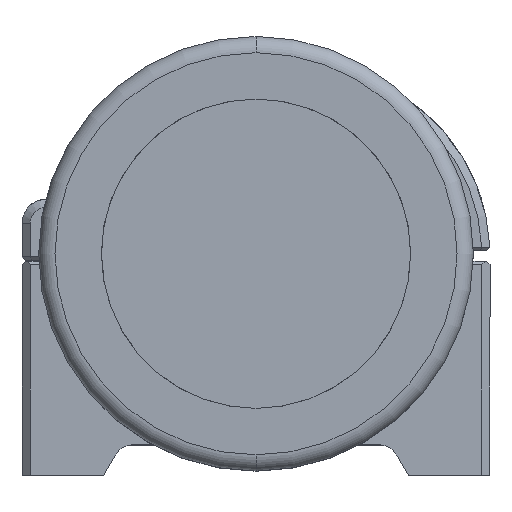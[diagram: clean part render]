
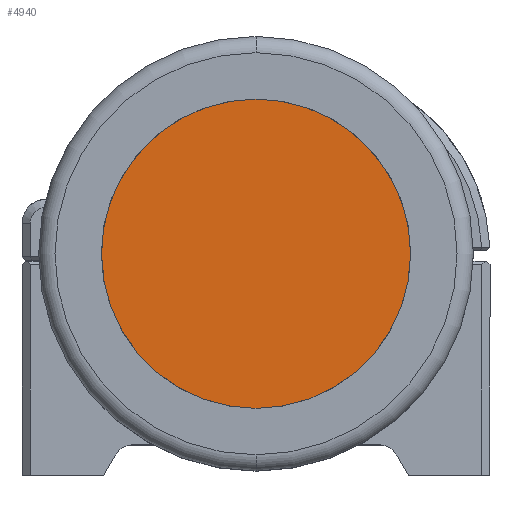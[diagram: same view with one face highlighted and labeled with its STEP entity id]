
A CAD part, top view. The second image highlights one B-rep face of the part: STEP entity #4940.
In plain terms, the highlighted planar face has unit normal (0, 0, 1).
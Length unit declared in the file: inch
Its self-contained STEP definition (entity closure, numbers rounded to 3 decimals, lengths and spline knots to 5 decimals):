
#2542 = FACE_OUTER_BOUND ( 'NONE', #30172, .T. ) ;
#2790 = VERTEX_POINT ( 'NONE', #27526 ) ;
#3684 = ORIENTED_EDGE ( 'NONE', *, *, #17186, .T. ) ;
#4802 = DIRECTION ( 'NONE',  ( 1., 0., 0. ) ) ;
#4940 = ADVANCED_FACE ( 'NONE', ( #2542 ), #12550, .T. ) ;
#7233 = DIRECTION ( 'NONE',  ( 0., 0., 1. ) ) ;
#7516 = AXIS2_PLACEMENT_3D ( 'NONE', #16685, #13956, #23765 ) ;
#9523 = AXIS2_PLACEMENT_3D ( 'NONE', #29630, #7233, #4802 ) ;
#11321 = CARTESIAN_POINT ( 'NONE',  ( 1.1675, 0., 0.1875 ) ) ;
#12550 = PLANE ( 'NONE',  #9523 ) ;
#13956 = DIRECTION ( 'NONE',  ( 0., 0., 1. ) ) ;
#14367 = CARTESIAN_POINT ( 'NONE',  ( 0., 0., 0.1875 ) ) ;
#16602 = DIRECTION ( 'NONE',  ( 1., 0., 0. ) ) ;
#16685 = CARTESIAN_POINT ( 'NONE',  ( 0., 0., 0.1875 ) ) ;
#17186 = EDGE_CURVE ( 'NONE', #2790, #18341, #22901, .T. ) ;
#18341 = VERTEX_POINT ( 'NONE', #11321 ) ;
#22901 = CIRCLE ( 'NONE', #25488, 1.1675 ) ;
#23765 = DIRECTION ( 'NONE',  ( 1., 0., 0. ) ) ;
#24024 = DIRECTION ( 'NONE',  ( 0., 0., 1. ) ) ;
#25488 = AXIS2_PLACEMENT_3D ( 'NONE', #14367, #24024, #16602 ) ;
#26066 = CIRCLE ( 'NONE', #7516, 1.1675 ) ;
#26275 = ORIENTED_EDGE ( 'NONE', *, *, #27369, .T. ) ;
#27369 = EDGE_CURVE ( 'NONE', #18341, #2790, #26066, .T. ) ;
#27526 = CARTESIAN_POINT ( 'NONE',  ( -1.1675, 0., 0.1875 ) ) ;
#29630 = CARTESIAN_POINT ( 'NONE',  ( 0., 0., 0.1875 ) ) ;
#30172 = EDGE_LOOP ( 'NONE', ( #3684, #26275 ) ) ;
